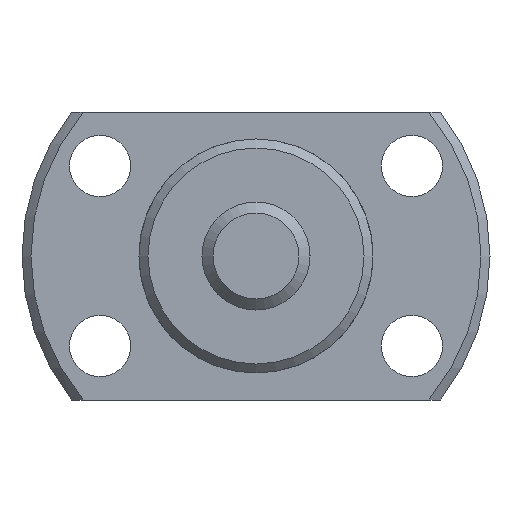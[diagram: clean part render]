
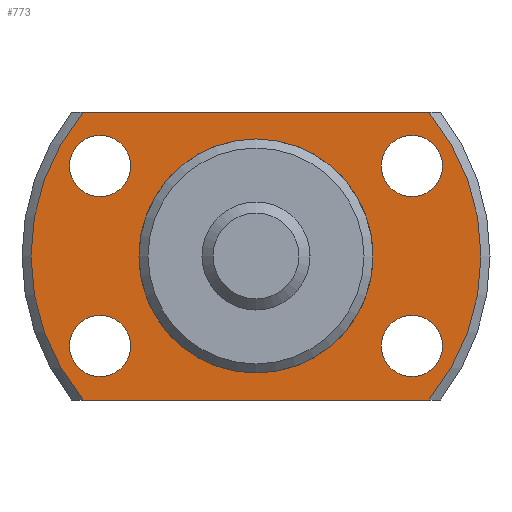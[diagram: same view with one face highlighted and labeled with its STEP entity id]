
A CAD part, left-side view. The second image highlights one B-rep face of the part: STEP entity #773.
In plain terms, the highlighted planar face has unit normal (-1, 0, 0).
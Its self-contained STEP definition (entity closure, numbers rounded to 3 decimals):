
#36=LINE('',#1345,#70);
#37=LINE('',#1349,#71);
#70=VECTOR('',#1058,1000.);
#71=VECTOR('',#1061,1000.);
#211=ORIENTED_EDGE('',*,*,#401,.T.);
#212=ORIENTED_EDGE('',*,*,#402,.T.);
#213=ORIENTED_EDGE('',*,*,#403,.T.);
#214=ORIENTED_EDGE('',*,*,#404,.T.);
#215=ORIENTED_EDGE('',*,*,#390,.F.);
#216=ORIENTED_EDGE('',*,*,#405,.F.);
#217=ORIENTED_EDGE('',*,*,#406,.F.);
#218=ORIENTED_EDGE('',*,*,#407,.F.);
#219=ORIENTED_EDGE('',*,*,#384,.T.);
#384=EDGE_CURVE('',#483,#483,#542,.T.);
#390=EDGE_CURVE('',#488,#489,#545,.T.);
#401=EDGE_CURVE('',#498,#498,#551,.T.);
#402=EDGE_CURVE('',#499,#499,#552,.T.);
#403=EDGE_CURVE('',#500,#500,#553,.T.);
#404=EDGE_CURVE('',#501,#501,#554,.T.);
#405=EDGE_CURVE('',#502,#488,#36,.T.);
#406=EDGE_CURVE('',#503,#502,#555,.T.);
#407=EDGE_CURVE('',#489,#503,#37,.T.);
#483=VERTEX_POINT('',#1288);
#488=VERTEX_POINT('',#1302);
#489=VERTEX_POINT('',#1304);
#498=VERTEX_POINT('',#1338);
#499=VERTEX_POINT('',#1340);
#500=VERTEX_POINT('',#1342);
#501=VERTEX_POINT('',#1344);
#502=VERTEX_POINT('',#1346);
#503=VERTEX_POINT('',#1348);
#542=CIRCLE('',#865,6.25);
#545=CIRCLE('',#869,12.5);
#551=CIRCLE('',#880,1.7);
#552=CIRCLE('',#881,1.7);
#553=CIRCLE('',#882,1.7);
#554=CIRCLE('',#883,1.7);
#555=CIRCLE('',#884,12.5);
#599=EDGE_LOOP('',(#211));
#600=EDGE_LOOP('',(#212));
#601=EDGE_LOOP('',(#213));
#602=EDGE_LOOP('',(#214));
#603=EDGE_LOOP('',(#215,#216,#217,#218));
#604=EDGE_LOOP('',(#219));
#679=FACE_BOUND('',#599,.T.);
#680=FACE_BOUND('',#600,.T.);
#681=FACE_BOUND('',#601,.T.);
#682=FACE_BOUND('',#602,.T.);
#683=FACE_BOUND('',#603,.T.);
#684=FACE_BOUND('',#604,.T.);
#736=PLANE('',#879);
#773=ADVANCED_FACE('',(#679,#680,#681,#682,#683,#684),#736,.F.);
#865=AXIS2_PLACEMENT_3D('',#1287,#1016,#1017);
#869=AXIS2_PLACEMENT_3D('',#1303,#1026,#1027);
#879=AXIS2_PLACEMENT_3D('',#1336,#1048,#1049);
#880=AXIS2_PLACEMENT_3D('',#1337,#1050,#1051);
#881=AXIS2_PLACEMENT_3D('',#1339,#1052,#1053);
#882=AXIS2_PLACEMENT_3D('',#1341,#1054,#1055);
#883=AXIS2_PLACEMENT_3D('',#1343,#1056,#1057);
#884=AXIS2_PLACEMENT_3D('',#1347,#1059,#1060);
#1016=DIRECTION('',(1.,0.,0.));
#1017=DIRECTION('',(0.,0.,-1.));
#1026=DIRECTION('',(1.,0.,0.));
#1027=DIRECTION('',(0.,0.,-1.));
#1048=DIRECTION('',(1.,0.,0.));
#1049=DIRECTION('',(0.,0.,-1.));
#1050=DIRECTION('',(1.,0.,0.));
#1051=DIRECTION('',(0.,0.,-1.));
#1052=DIRECTION('',(1.,0.,0.));
#1053=DIRECTION('',(0.,0.,-1.));
#1054=DIRECTION('',(1.,0.,0.));
#1055=DIRECTION('',(0.,0.,-1.));
#1056=DIRECTION('',(1.,0.,0.));
#1057=DIRECTION('',(0.,0.,-1.));
#1058=DIRECTION('',(0.,1.,0.));
#1059=DIRECTION('',(1.,0.,0.));
#1060=DIRECTION('',(0.,0.,-1.));
#1061=DIRECTION('',(0.,-1.,0.));
#1287=CARTESIAN_POINT('',(13.,0.,0.));
#1288=CARTESIAN_POINT('',(13.,0.,-6.25));
#1302=CARTESIAN_POINT('',(13.,9.605,-8.));
#1303=CARTESIAN_POINT('',(13.,0.,0.));
#1304=CARTESIAN_POINT('',(13.,9.605,8.));
#1336=CARTESIAN_POINT('',(13.,6.25,0.));
#1337=CARTESIAN_POINT('',(13.,-8.66,-5.));
#1338=CARTESIAN_POINT('',(13.,-8.66,-6.7));
#1339=CARTESIAN_POINT('',(13.,-8.66,5.));
#1340=CARTESIAN_POINT('',(13.,-8.66,3.3));
#1341=CARTESIAN_POINT('',(13.,8.66,-5.));
#1342=CARTESIAN_POINT('',(13.,8.66,-6.7));
#1343=CARTESIAN_POINT('',(13.,8.66,5.));
#1344=CARTESIAN_POINT('',(13.,8.66,3.3));
#1345=CARTESIAN_POINT('',(13.,-18.,-8.));
#1346=CARTESIAN_POINT('',(13.,-9.605,-8.));
#1347=CARTESIAN_POINT('',(13.,0.,0.));
#1348=CARTESIAN_POINT('',(13.,-9.605,8.));
#1349=CARTESIAN_POINT('',(13.,18.,8.));
